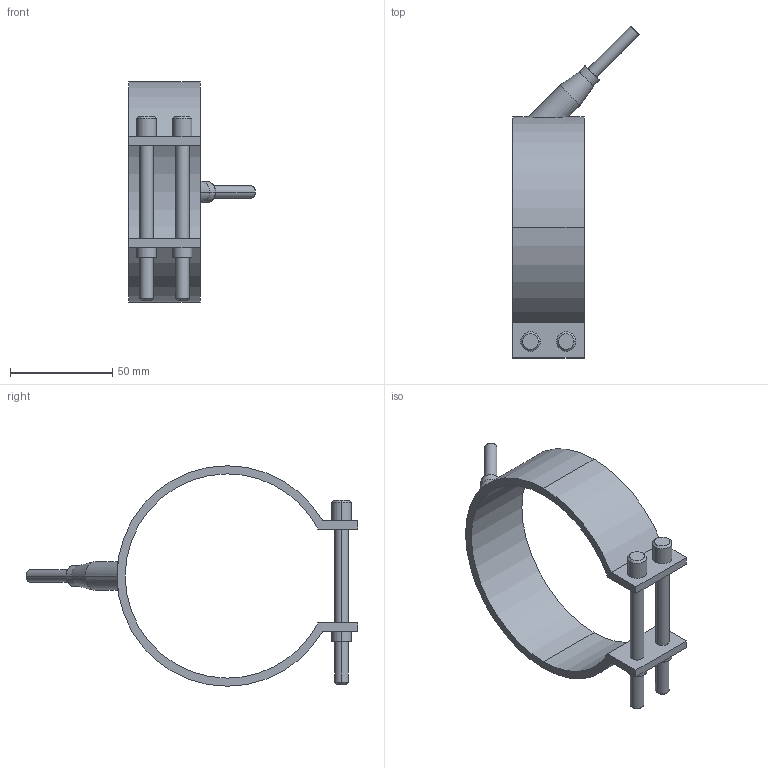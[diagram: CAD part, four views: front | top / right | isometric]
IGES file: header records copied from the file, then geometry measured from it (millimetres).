
Start section: START RECORD GO HERE.
Global section: file name: 29100035.igs; native system: DASSAULT SYSTEMES CATIA V5 R20 - www.3ds.com; preprocessor: CATIA Version 5 Release 20 ; author: Utente; organization: NB04-ASUS; date: 20210329.152021; units: millimetre
Bounding box: 62.05 x 162.55 x 108 mm (x, y, z)
Surface area: 29721.3 mm2 (no closed solid volume)
Topology: 0 solids, 0 shells, 54 faces, 242 edges, 242 vertices
Faces by surface type: revolution 38, plane 16
